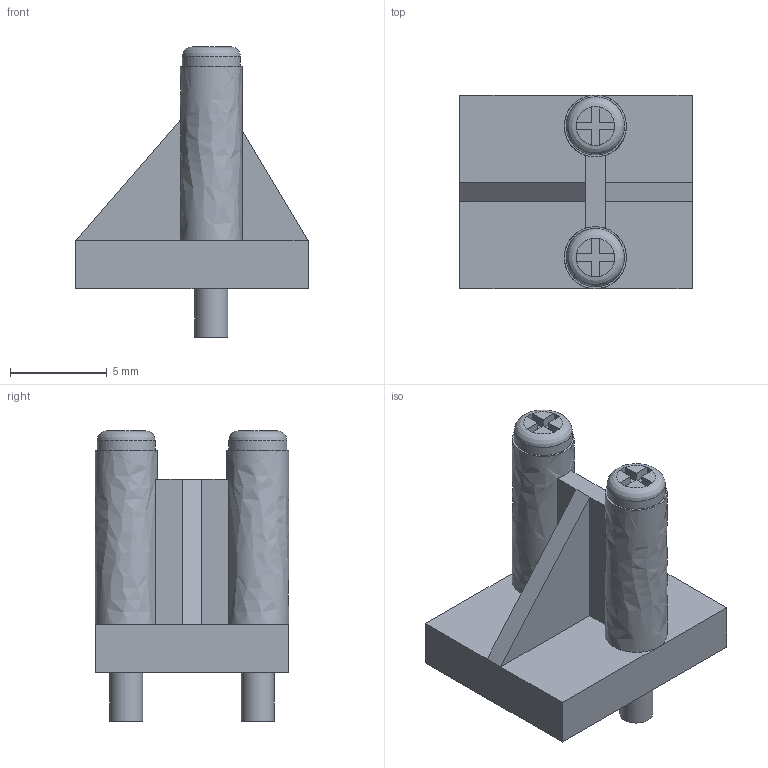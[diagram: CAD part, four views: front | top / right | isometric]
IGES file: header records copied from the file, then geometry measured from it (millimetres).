
Global section: file name: P395.00; native system: Autodesk Inventor 2014; preprocessor: unknown; organization: Pneumax S.p.A.; date: 20160902.104414; units: millimetre
Bounding box: 12 x 10 x 15 mm (x, y, z)
Volume: 536.5 mm3; surface area: 696.6 mm2
Topology: 1 solids, 1 shells, 66 faces, 174 edges, 114 vertices
Faces by surface type: bspline 66
